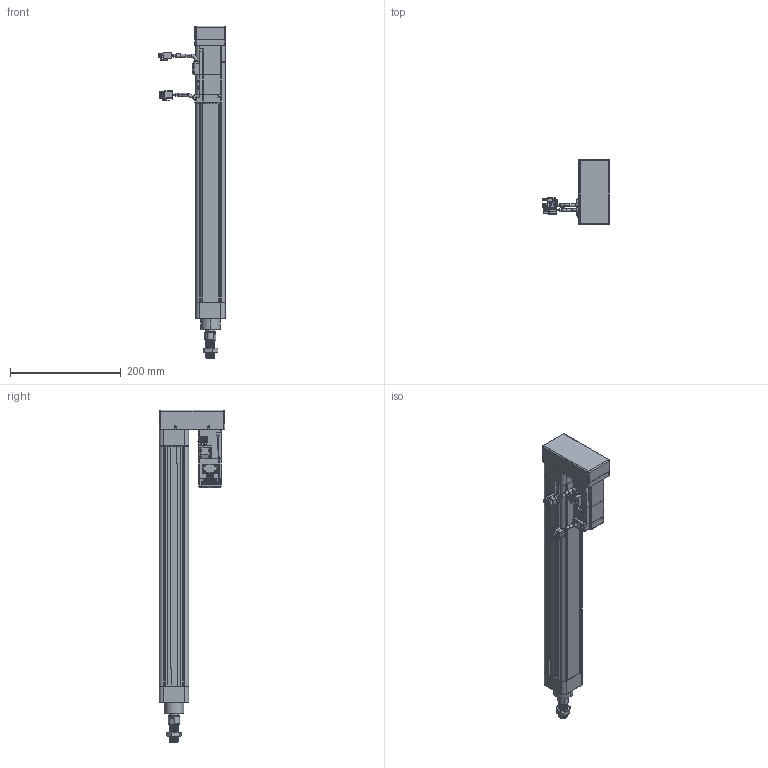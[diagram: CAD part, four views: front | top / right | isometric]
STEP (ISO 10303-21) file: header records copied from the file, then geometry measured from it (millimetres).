
FILE_DESCRIPTION (( 'STEP AP203' ), '1' );
FILE_NAME ('VEC50-10-C-350-MF-ZP10B-MS2.STEP', '2019-01-26T02:51:22', ( 'vobosh 6' ), ( 'Microsoft' ), 'SwSTEP 2.0', 'SolidWorks 2016', '' );
FILE_SCHEMA (( 'CONFIG_CONTROL_DESIGN' ));
Length unit declared in the file: millimetre
Products named in the file (12): VEC50-10-C-350-MF-ZP10B-MS2; 带尾螺母M6x9x45（镀镍）; 柈ч肣薦え耳9x耳8.5x4.4; VEC50-MF-200-011-X1; CS1-M; 鞠褒蹟譫M16x1.5; VEC50-MF-200-004-X1; VEC50-MF-200-001-X1; MHMF012L1V2; VEC50-MF-200-002-X1; VEC50-MF-200-005-X1; VEC50-MF-200-003-X1
Assembly tree (20 placements, depth 2):
  VEC50-10-C-350-MF-ZP10B-MS2
    VEC50-MF-200-001-X1
    VEC50-MF-200-002-X1
    VEC50-MF-200-003-X1
    带尾螺母M6x9x45（镀镍）  x8
    柈ч肣薦え耳9x耳8.5x4.4  x2
    VEC50-MF-200-011-X1
    CS1-M  x2
    鞠褒蹟譫M16x1.5
    VEC50-MF-200-004-X1
    MHMF012L1V2
    VEC50-MF-200-005-X1
Bounding box: 122.5 x 118 x 599 mm (x, y, z)
Volume: 951434.1 mm3; surface area: 344070.4 mm2
Topology: 27 solids, 27 shells, 1970 faces, 4861 edges, 3048 vertices
Faces by surface type: plane 902, cylinder 703, cone 239, bspline 117, torus 9
Entity records: 59744 total; most frequent: CARTESIAN_POINT 16772, DIRECTION 8631, ORIENTED_EDGE 8630, EDGE_CURVE 4315, AXIS2_PLACEMENT_3D 2988, VERTEX_POINT 2755, VECTOR 2655, LINE 2655
